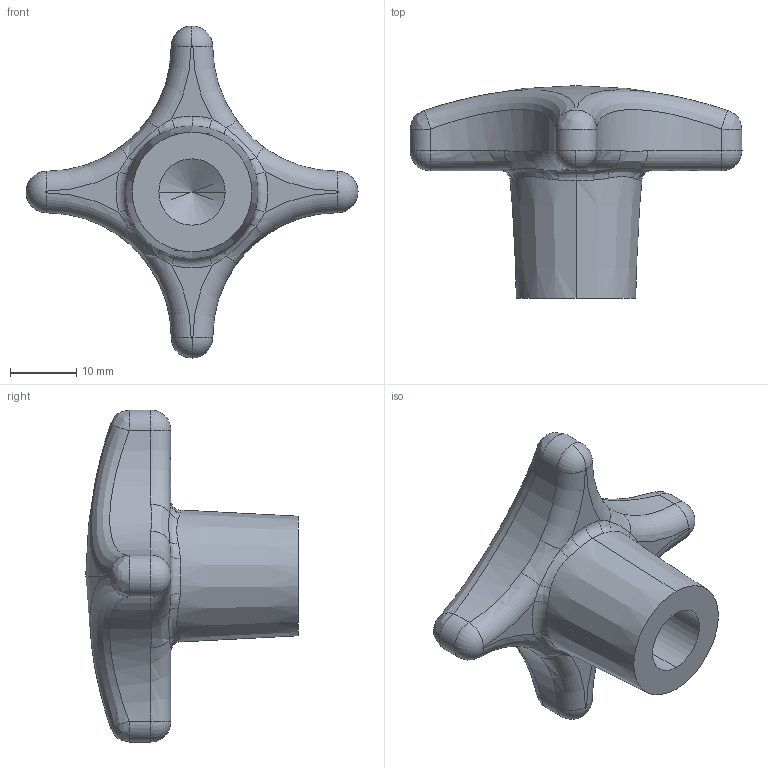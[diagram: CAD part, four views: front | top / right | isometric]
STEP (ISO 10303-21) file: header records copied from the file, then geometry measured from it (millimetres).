
FILE_DESCRIPTION (( 'STEP AP203' ), '1' );
FILE_NAME ('70040.W0650.step', '2019-01-26T19:32:34', ( '' ), ( '' ), 'SwSTEP 2.0', 'SolidWorks 2017', '' );
FILE_SCHEMA (( 'CONFIG_CONTROL_DESIGN' ));
Length unit declared in the file: millimetre
Products named in the file (1): 70040.W0650
Bounding box: 50 x 32 x 50 mm (x, y, z)
Volume: 13233.6 mm3; surface area: 4761.8 mm2
Topology: 1 solids, 1 shells, 65 faces, 156 edges, 92 vertices
Faces by surface type: bspline 24, torus 19, cylinder 11, plane 5, cone 4, sphere 2
Entity records: 3618 total; most frequent: CARTESIAN_POINT 2159, ORIENTED_EDGE 308, DIRECTION 283, EDGE_CURVE 154, AXIS2_PLACEMENT_3D 134, CIRCLE 92, VERTEX_POINT 92, EDGE_LOOP 66
